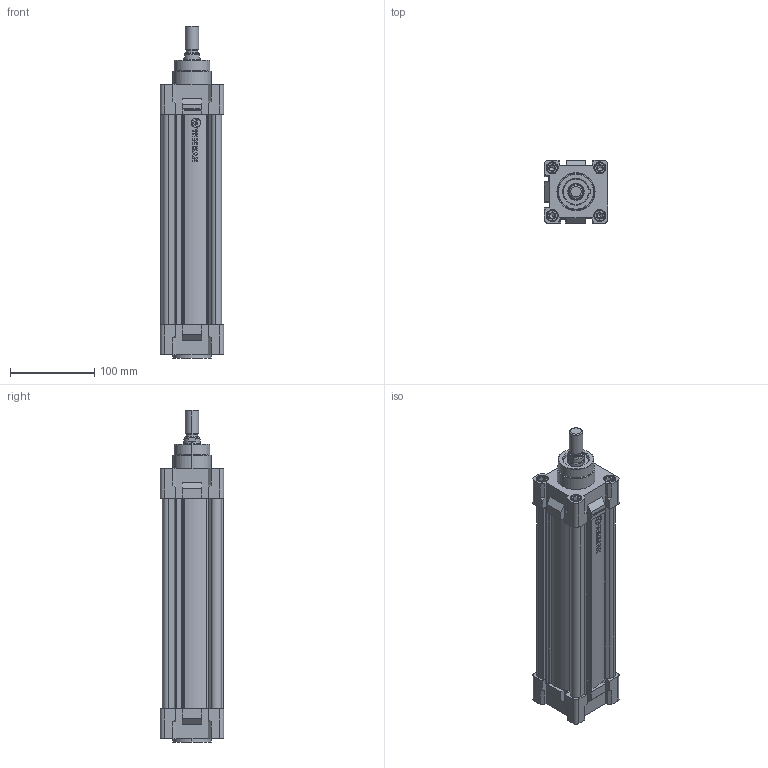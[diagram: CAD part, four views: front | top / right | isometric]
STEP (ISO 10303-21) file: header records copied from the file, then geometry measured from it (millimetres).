
FILE_DESCRIPTION (( 'STEP AP214' ), '1' );
FILE_NAME ('WAC-063-0200 (3D).STEP', '2019-11-29T15:31:08', ( '' ), ( '' ), 'SwSTEP 2.0', 'SolidWorks 2016', '' );
FILE_SCHEMA (( 'AUTOMOTIVE_DESIGN' ));
Length unit declared in the file: millimetre
Products named in the file (3): Group2^WAC-063-0200 (3D); WAC-063-0200 (3D); Group1^WAC-063-0200 (3D)
Assembly tree (2 placements, depth 2):
  WAC-063-0200 (3D)
    Group1^WAC-063-0200 (3D)
    Group2^WAC-063-0200 (3D)
Bounding box: 75 x 75 x 393 mm (x, y, z)
Volume: 918963.6 mm3; surface area: 243991.5 mm2
Topology: 12 solids, 12 shells, 623 faces, 1576 edges, 1021 vertices
Faces by surface type: plane 354, cylinder 118, bspline 87, cone 62, torus 2
Entity records: 25643 total; most frequent: CARTESIAN_POINT 9194, ORIENTED_EDGE 3120, DIRECTION 2670, EDGE_CURVE 1560, LINE 1028, VECTOR 1028, VERTEX_POINT 1021, AXIS2_PLACEMENT_3D 821
